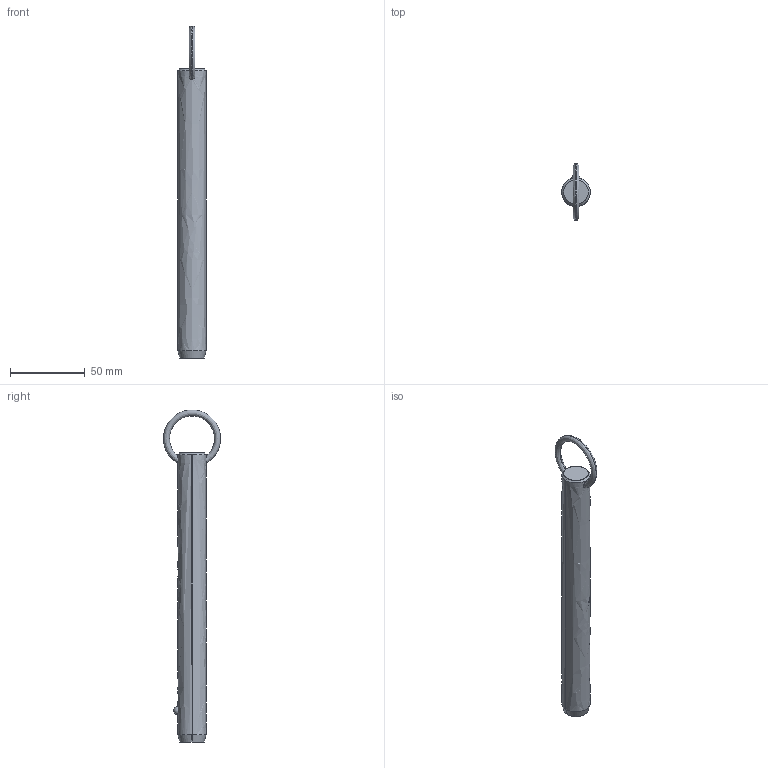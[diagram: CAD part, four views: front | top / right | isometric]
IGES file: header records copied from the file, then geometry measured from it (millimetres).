
Start section: SolidWorks IGES file using analytic representation for surfaces
Global section: file name: C:\Users\liam_\OneDrive\Documents\WORK\Work for WixRoyd\Job Files\J-00019 - Matt Davis CAD Checking\04. CAD Drawings\automotion20190605\P1250.2_v2\P1250.2_v2_20190729_IGES\P1250.075-630.igs; native system: SolidWorks 2017; preprocessor: SolidWorks 2017; author: liam_; date: 190729.235933; units: millimetre
Bounding box: 19 x 38.07 x 221.79 mm (x, y, z)
Surface area: 13065 mm2 (no closed solid volume)
Topology: 0 solids, 0 shells, 12 faces, 294 edges, 292 vertices
Faces by surface type: revolution 8, bspline 4
